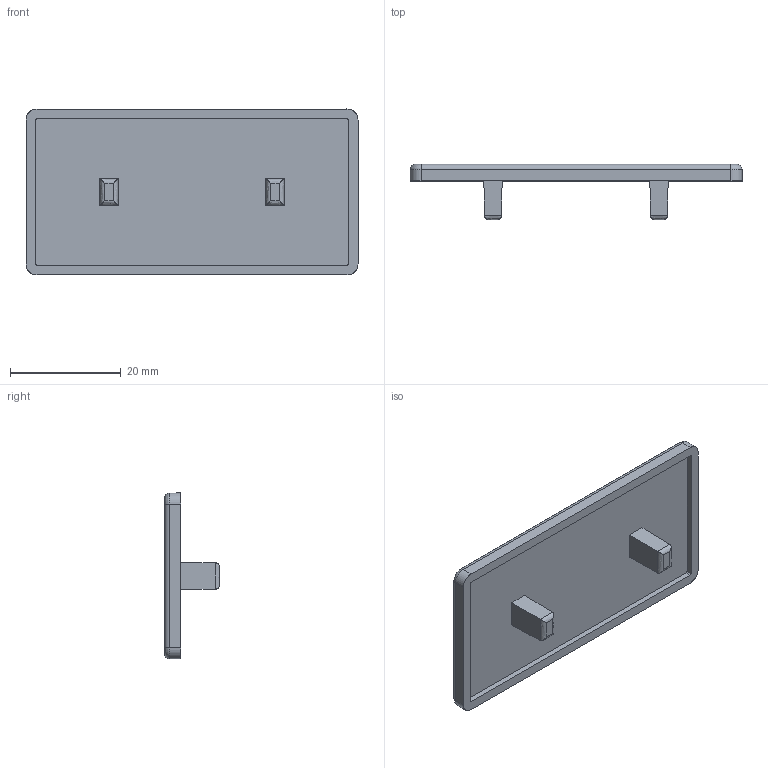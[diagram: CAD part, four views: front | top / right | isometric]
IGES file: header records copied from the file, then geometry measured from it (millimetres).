
Start section: SolidWorks IGES file using analytic representation for surfaces
Global section: file name: C:\Users\admin\Desktop\IGES\J3C6.igs; native system: SolidWorks 2014; preprocessor: SolidWorks 2014; author: admin_pc; date: 170524.165401; units: millimetre
Bounding box: 60 x 10 x 30 mm (x, y, z)
Surface area: 4455 mm2 (no closed solid volume)
Topology: 0 solids, 0 shells, 45 faces, 352 edges, 352 vertices
Faces by surface type: bspline 25, revolution 20
